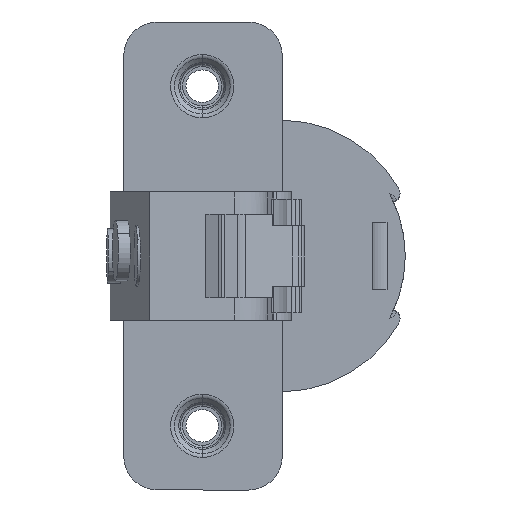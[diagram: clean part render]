
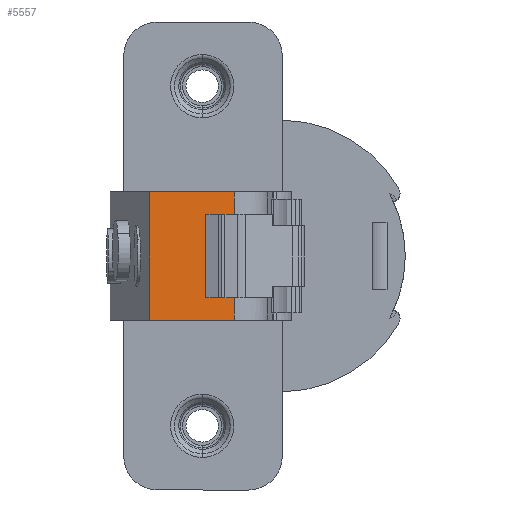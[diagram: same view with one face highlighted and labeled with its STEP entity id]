
A CAD part, left-side view. The second image highlights one B-rep face of the part: STEP entity #5557.
In plain terms, the highlighted planar face has unit normal (-0.995, -0.098, 0).
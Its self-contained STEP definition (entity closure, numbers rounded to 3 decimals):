
#96 = VECTOR ( 'NONE', #5531, 1000. ) ;
#376 = LINE ( 'NONE', #2134, #2204 ) ;
#394 = LINE ( 'NONE', #2153, #1172 ) ;
#401 = DIRECTION ( 'NONE',  ( 0., 0., -1. ) ) ;
#597 = DIRECTION ( 'NONE',  ( 0., 0., 1. ) ) ;
#636 = ORIENTED_EDGE ( 'NONE', *, *, #1484, .F. ) ;
#669 = ORIENTED_EDGE ( 'NONE', *, *, #2267, .T. ) ;
#671 = DIRECTION ( 'NONE',  ( -0.098, 0.995, 0. ) ) ;
#674 = VERTEX_POINT ( 'NONE', #4530 ) ;
#710 = LINE ( 'NONE', #2473, #96 ) ;
#730 = VERTEX_POINT ( 'NONE', #2230 ) ;
#765 = EDGE_LOOP ( 'NONE', ( #1217, #4612, #2383, #636, #2451, #669, #4049, #4139 ) ) ;
#834 = VECTOR ( 'NONE', #1921, 1000. ) ;
#906 = CARTESIAN_POINT ( 'NONE',  ( -81.277, -8.289, 5.5 ) ) ;
#1031 = EDGE_CURVE ( 'NONE', #5308, #2116, #5625, .T. ) ;
#1067 = CARTESIAN_POINT ( 'NONE',  ( -81.353, -7.516, -5.5 ) ) ;
#1172 = VECTOR ( 'NONE', #3825, 1000. ) ;
#1185 = VERTEX_POINT ( 'NONE', #2306 ) ;
#1217 = ORIENTED_EDGE ( 'NONE', *, *, #2818, .T. ) ;
#1484 = EDGE_CURVE ( 'NONE', #4957, #1185, #3827, .T. ) ;
#1623 = PLANE ( 'NONE',  #3789 ) ;
#1696 = EDGE_CURVE ( 'NONE', #4957, #730, #2433, .T. ) ;
#1739 = VECTOR ( 'NONE', #4649, 1000. ) ;
#1835 = LINE ( 'NONE', #906, #834 ) ;
#1863 = CARTESIAN_POINT ( 'NONE',  ( -81.669, -4.31, 5.5 ) ) ;
#1921 = DIRECTION ( 'NONE',  ( 0.098, -0.995, 0. ) ) ;
#1943 = EDGE_CURVE ( 'NONE', #1957, #1185, #1835, .T. ) ;
#1957 = VERTEX_POINT ( 'NONE', #1863 ) ;
#2116 = VERTEX_POINT ( 'NONE', #4129 ) ;
#2134 = CARTESIAN_POINT ( 'NONE',  ( -82.454, 3.646, -7.6 ) ) ;
#2136 = CARTESIAN_POINT ( 'NONE',  ( -81.277, -8.289, -20.5 ) ) ;
#2153 = CARTESIAN_POINT ( 'NONE',  ( -81.353, -7.516, -24.5 ) ) ;
#2164 = DIRECTION ( 'NONE',  ( -0.098, 0.995, 0. ) ) ;
#2204 = VECTOR ( 'NONE', #401, 1000. ) ;
#2230 = CARTESIAN_POINT ( 'NONE',  ( -82.454, 3.646, 8.5 ) ) ;
#2267 = EDGE_CURVE ( 'NONE', #730, #2116, #376, .T. ) ;
#2272 = VECTOR ( 'NONE', #3481, 1000. ) ;
#2306 = CARTESIAN_POINT ( 'NONE',  ( -81.353, -7.516, 5.5 ) ) ;
#2383 = ORIENTED_EDGE ( 'NONE', *, *, #1943, .T. ) ;
#2388 = CARTESIAN_POINT ( 'NONE',  ( -81.669, -4.31, -20.5 ) ) ;
#2433 = LINE ( 'NONE', #5492, #2856 ) ;
#2451 = ORIENTED_EDGE ( 'NONE', *, *, #1696, .T. ) ;
#2473 = CARTESIAN_POINT ( 'NONE',  ( -81.277, -8.289, -5.5 ) ) ;
#2510 = CARTESIAN_POINT ( 'NONE',  ( -82.555, 4.668, -8.5 ) ) ;
#2542 = DIRECTION ( 'NONE',  ( 0.995, 0.098, 0. ) ) ;
#2681 = EDGE_CURVE ( 'NONE', #674, #1957, #3735, .T. ) ;
#2818 = EDGE_CURVE ( 'NONE', #3518, #674, #710, .T. ) ;
#2856 = VECTOR ( 'NONE', #671, 1000. ) ;
#3052 = FACE_OUTER_BOUND ( 'NONE', #765, .T. ) ;
#3146 = CARTESIAN_POINT ( 'NONE',  ( -81.353, -7.516, -8.5 ) ) ;
#3481 = DIRECTION ( 'NONE',  ( -0.098, 0.995, 0. ) ) ;
#3518 = VERTEX_POINT ( 'NONE', #1067 ) ;
#3735 = LINE ( 'NONE', #2388, #5418 ) ;
#3789 = AXIS2_PLACEMENT_3D ( 'NONE', #2136, #2542, #2164 ) ;
#3825 = DIRECTION ( 'NONE',  ( 0., 0., -1. ) ) ;
#3827 = LINE ( 'NONE', #5171, #1739 ) ;
#4049 = ORIENTED_EDGE ( 'NONE', *, *, #1031, .F. ) ;
#4050 = CARTESIAN_POINT ( 'NONE',  ( -81.353, -7.516, 8.5 ) ) ;
#4129 = CARTESIAN_POINT ( 'NONE',  ( -82.454, 3.646, -8.5 ) ) ;
#4139 = ORIENTED_EDGE ( 'NONE', *, *, #4159, .F. ) ;
#4159 = EDGE_CURVE ( 'NONE', #3518, #5308, #394, .T. ) ;
#4530 = CARTESIAN_POINT ( 'NONE',  ( -81.669, -4.31, -5.5 ) ) ;
#4612 = ORIENTED_EDGE ( 'NONE', *, *, #2681, .T. ) ;
#4649 = DIRECTION ( 'NONE',  ( 0., 0., -1. ) ) ;
#4957 = VERTEX_POINT ( 'NONE', #4050 ) ;
#5171 = CARTESIAN_POINT ( 'NONE',  ( -81.353, -7.516, -24.5 ) ) ;
#5308 = VERTEX_POINT ( 'NONE', #3146 ) ;
#5418 = VECTOR ( 'NONE', #597, 1000. ) ;
#5492 = CARTESIAN_POINT ( 'NONE',  ( -81.277, -8.289, 8.5 ) ) ;
#5531 = DIRECTION ( 'NONE',  ( -0.098, 0.995, 0. ) ) ;
#5557 = ADVANCED_FACE ( 'NONE', ( #3052 ), #1623, .F. ) ;
#5625 = LINE ( 'NONE', #2510, #2272 ) ;
